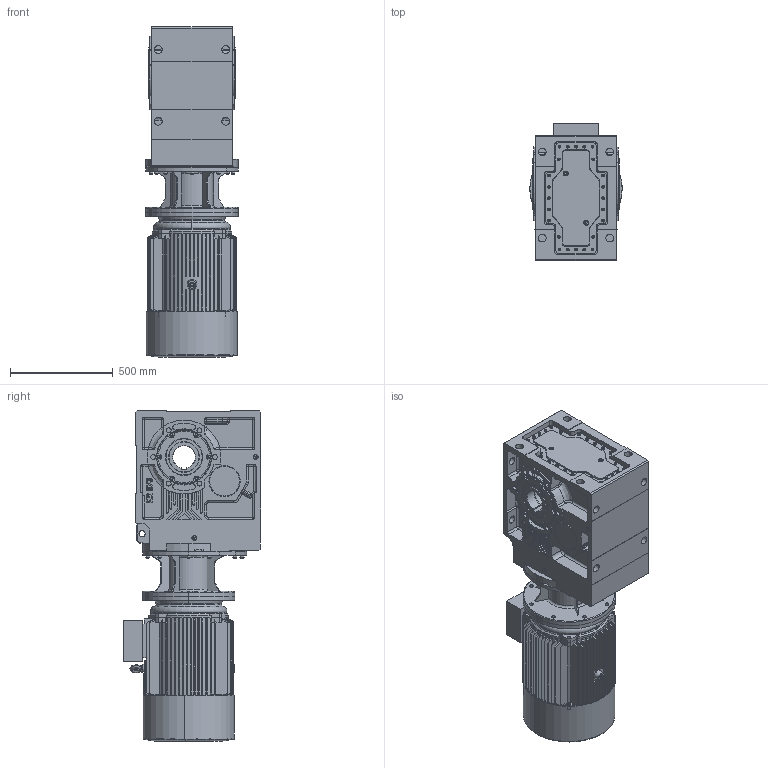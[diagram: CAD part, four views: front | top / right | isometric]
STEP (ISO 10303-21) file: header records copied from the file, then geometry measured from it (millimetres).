
FILE_DESCRIPTION (( 'STEP AP203' ), '1' );
FILE_NAME ('KV_873_0_M3-225M-4.STEP', '2019-07-18T08:37:05', ( '' ), ( '' ), 'SwSTEP 2.0', 'SolidWorks 2012', '' );
FILE_SCHEMA (( 'CONFIG_CONTROL_DESIGN' ));
Products named in the file (14): Eyebolts GB_GB_FASTENER_SCREWS_FRS M16-N_1; Y2-225-4-¯ª­-È®+_-++ñ; KV_873_0_M3-225M-4; M3-225M-4p-FF-B5; Plain parallel keys_GB_CONNECTING_PIECE_KEYS_CSK 18X125; 225-4-¯+²ª¦+¦_-++ñ; 225-4-ª+-_-++ñ; 225-4-¯+²_-++ñ; KN_87_3_0_A-B22_B5; ML23A_Varsayìlan; Y2-225MB5+À+¿_-++ñ; Y2-225+¦i-_-++ñ; 83A225B5_Varsayìlan; K873_Varsayìlan
Assembly tree (13 placements, depth 4):
  KV_873_0_M3-225M-4
    KN_87_3_0_A-B22_B5
      K873_Varsayìlan
      83A225B5_Varsayìlan
      ML23A_Varsayìlan
    M3-225M-4p-FF-B5
      Y2-225MB5+À+¿_-++ñ
      Y2-225+¦i-_-++ñ
      225-4-¯+²ª¦+¦_-++ñ
        225-4-¯+²_-++ñ
        Plain parallel keys_GB_CONNECTING_PIECE_KEYS_CSK 18X125
      225-4-ª+-_-++ñ
      Y2-225-4-¯ª­-È®+_-++ñ
      Eyebolts GB_GB_FASTENER_SCREWS_FRS M16-N_1
Bounding box: 450 x 672.5 x 1611.5 mm (x, y, z)
Volume: 33399566 mm3; surface area: 8350324.2 mm2
Topology: 11 solids, 58 shells, 3129 faces, 7881 edges, 4977 vertices
Faces by surface type: plane 1378, cylinder 898, cone 500, bspline 330, torus 23
Entity records: 115071 total; most frequent: CARTESIAN_POINT 40256, ORIENTED_EDGE 15546, DIRECTION 14942, EDGE_CURVE 7793, AXIS2_PLACEMENT_3D 5490, VERTEX_POINT 4970, VECTOR 3962, LINE 3962
